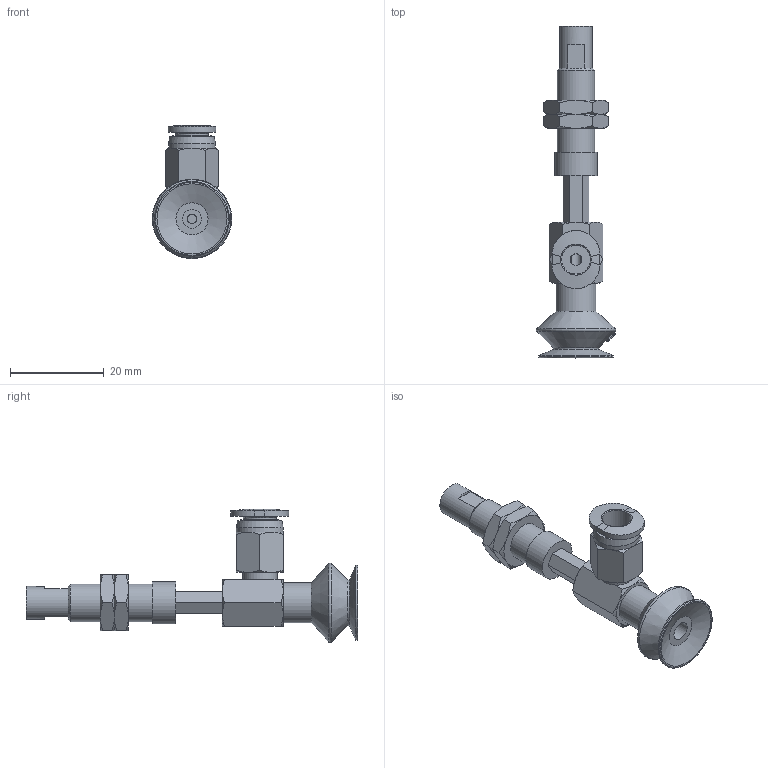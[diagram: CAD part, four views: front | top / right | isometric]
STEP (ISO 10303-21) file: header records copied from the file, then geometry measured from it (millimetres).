
FILE_DESCRIPTION(('STEP AP203'),'1');
FILE_NAME('-O.stp','2025-04-02T01:35:23',(' '),(' '),'Spatial InterOp 3D',' ',' ');
FILE_SCHEMA(('CONFIG_CONTROL_DESIGN'));
Length unit declared in the file: millimetre
Products named in the file (9): BNABPBYH-15A-10-※-O; CONNECTOR-15A-10-PB; Nut-15A-S-PB; NAPBTH-15A-10-FBODY; NAPBTH-15A-10-MBODY; BPBG-15A-※; __27; BPBG-15A; PC-C_06-M5
Assembly tree (9 placements, depth 3):
  BNABPBYH-15A-10-※-O
    CONNECTOR-15A-10-PB
    Nut-15A-S-PB  x2
    NAPBTH-15A-10-FBODY
    NAPBTH-15A-10-MBODY
    BPBG-15A-※
      __27
      BPBG-15A
    PC-C_06-M5
Bounding box: 17 x 71 x 28.48 mm (x, y, z)
Volume: 4593 mm3; surface area: 6112.6 mm2
Topology: 7 solids, 10 shells, 205 faces, 440 edges, 270 vertices
Faces by surface type: plane 81, cone 71, cylinder 25, torus 13, bspline 12, revolution 3
Full cylindrical faces by diameter (mm): 2 x1, 4 x5, 4.134 x2, 5 x2, 6 x2, 7 x2, 7.188 x2, 7.4 x1, 8 x1, 8.2 x1, 8.5 x1, 9 x1, 10 x1, 16 x1
Entity records: 6573 total; most frequent: CARTESIAN_POINT 2624, DIRECTION 704, ORIENTED_EDGE 646, EDGE_CURVE 325, AXIS2_PLACEMENT_3D 300, EDGE_LOOP 263, VERTEX_POINT 228, FACE_OUTER_BOUND 157
